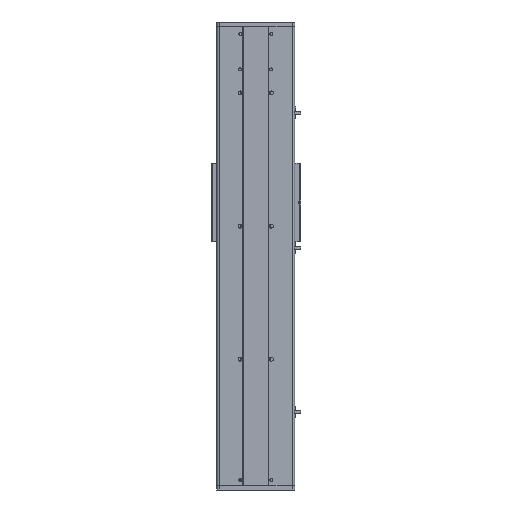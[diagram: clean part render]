
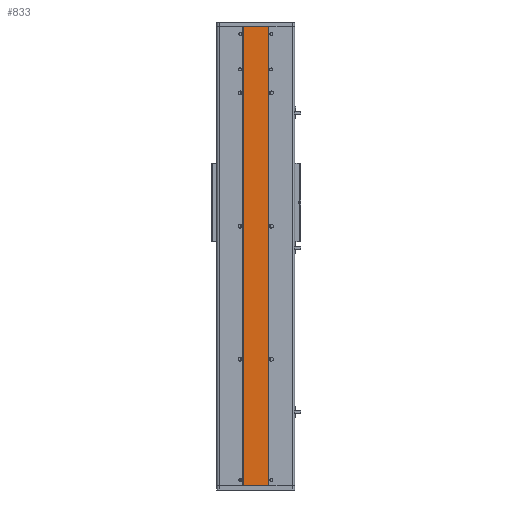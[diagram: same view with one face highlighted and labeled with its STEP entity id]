
A CAD part, front view. The second image highlights one B-rep face of the part: STEP entity #833.
In plain terms, the highlighted planar face has unit normal (0, -1, 0).
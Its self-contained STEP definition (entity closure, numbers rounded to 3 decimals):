
#263 = EDGE_CURVE ( 'NONE', #11578, #6623, #20338, .T. ) ;
#833 = ADVANCED_FACE ( 'NONE', ( #27570 ), #27363, .F. ) ;
#2753 = LINE ( 'NONE', #24427, #8808 ) ;
#3190 = DIRECTION ( 'NONE',  ( -1., 0., 0. ) ) ;
#3443 = ORIENTED_EDGE ( 'NONE', *, *, #8512, .F. ) ;
#4344 = CARTESIAN_POINT ( 'NONE',  ( 58.27, -85.314, 1035. ) ) ;
#5546 = ORIENTED_EDGE ( 'NONE', *, *, #18434, .T. ) ;
#5782 = CARTESIAN_POINT ( 'NONE',  ( 0., -85.314, 0. ) ) ;
#6623 = VERTEX_POINT ( 'NONE', #17006 ) ;
#6746 = ORIENTED_EDGE ( 'NONE', *, *, #32166, .T. ) ;
#8244 = VECTOR ( 'NONE', #31102, 1000. ) ;
#8512 = EDGE_CURVE ( 'NONE', #21305, #11578, #31989, .T. ) ;
#8808 = VECTOR ( 'NONE', #16759, 1000. ) ;
#9675 = AXIS2_PLACEMENT_3D ( 'NONE', #11846, #14470, #32560 ) ;
#11578 = VERTEX_POINT ( 'NONE', #19809 ) ;
#11846 = CARTESIAN_POINT ( 'NONE',  ( 1.27, -85.314, -845. ) ) ;
#14470 = DIRECTION ( 'NONE',  ( 0., 1., 0. ) ) ;
#15470 = EDGE_LOOP ( 'NONE', ( #6746, #5546, #19534, #3443 ) ) ;
#16133 = CARTESIAN_POINT ( 'NONE',  ( 1.27, -85.314, -845. ) ) ;
#16759 = DIRECTION ( 'NONE',  ( 0., 0., 1. ) ) ;
#17006 = CARTESIAN_POINT ( 'NONE',  ( 1.27, -85.314, 1035. ) ) ;
#18434 = EDGE_CURVE ( 'NONE', #28589, #6623, #23629, .T. ) ;
#18710 = VECTOR ( 'NONE', #18720, 1000. ) ;
#18720 = DIRECTION ( 'NONE',  ( 0., 0., 1. ) ) ;
#19534 = ORIENTED_EDGE ( 'NONE', *, *, #263, .F. ) ;
#19809 = CARTESIAN_POINT ( 'NONE',  ( 1.27, -85.314, 0. ) ) ;
#19839 = VECTOR ( 'NONE', #3190, 1000. ) ;
#20338 = LINE ( 'NONE', #16133, #18710 ) ;
#21305 = VERTEX_POINT ( 'NONE', #23034 ) ;
#23034 = CARTESIAN_POINT ( 'NONE',  ( 58.27, -85.314, 0. ) ) ;
#23629 = LINE ( 'NONE', #28481, #8244 ) ;
#24427 = CARTESIAN_POINT ( 'NONE',  ( 58.27, -85.314, -845. ) ) ;
#27363 = PLANE ( 'NONE',  #9675 ) ;
#27570 = FACE_OUTER_BOUND ( 'NONE', #15470, .T. ) ;
#28481 = CARTESIAN_POINT ( 'NONE',  ( 1.27, -85.314, 1035. ) ) ;
#28589 = VERTEX_POINT ( 'NONE', #4344 ) ;
#31102 = DIRECTION ( 'NONE',  ( -1., 0., 0. ) ) ;
#31989 = LINE ( 'NONE', #5782, #19839 ) ;
#32166 = EDGE_CURVE ( 'NONE', #21305, #28589, #2753, .T. ) ;
#32560 = DIRECTION ( 'NONE',  ( 0., 0., 1. ) ) ;
